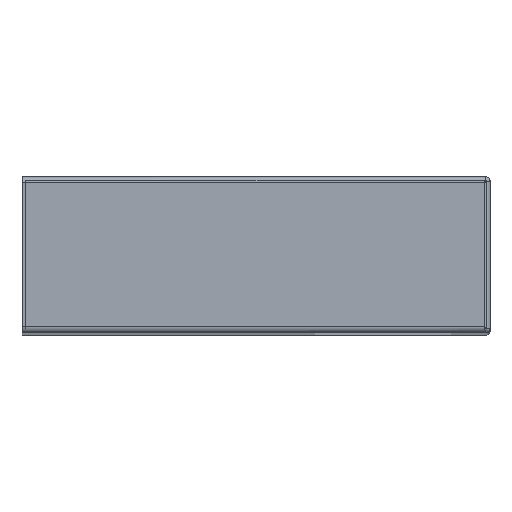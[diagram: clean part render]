
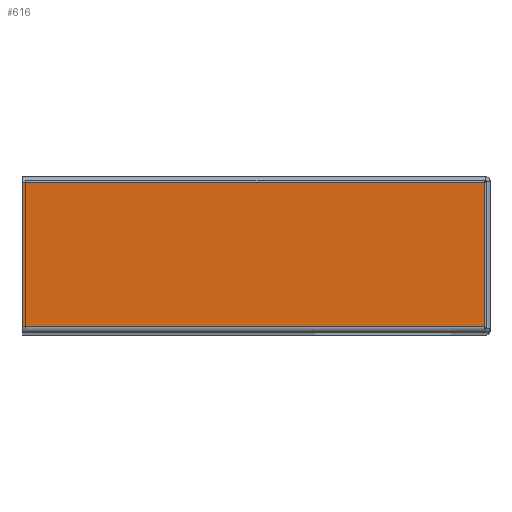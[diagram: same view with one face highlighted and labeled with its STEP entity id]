
A CAD part, top view. The second image highlights one B-rep face of the part: STEP entity #616.
In plain terms, the highlighted planar face has unit normal (0, 0, 1).
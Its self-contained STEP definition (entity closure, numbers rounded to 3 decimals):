
#246 = LINE ( 'NONE', #1129, #308 ) ;
#258 = VECTOR ( 'NONE', #922, 1000. ) ;
#292 = LINE ( 'NONE', #893, #498 ) ;
#295 = ORIENTED_EDGE ( 'NONE', *, *, #842, .T. ) ;
#308 = VECTOR ( 'NONE', #1130, 1000. ) ;
#348 = VECTOR ( 'NONE', #902, 1000. ) ;
#390 = ORIENTED_EDGE ( 'NONE', *, *, #841, .T. ) ;
#416 = ORIENTED_EDGE ( 'NONE', *, *, #1309, .T. ) ;
#421 = EDGE_LOOP ( 'NONE', ( #416, #295, #390, #491 ) ) ;
#473 = LINE ( 'NONE', #892, #348 ) ;
#491 = ORIENTED_EDGE ( 'NONE', *, *, #847, .T. ) ;
#498 = VECTOR ( 'NONE', #923, 1000. ) ;
#546 = FACE_OUTER_BOUND ( 'NONE', #421, .T. ) ;
#565 = LINE ( 'NONE', #920, #258 ) ;
#570 = AXIS2_PLACEMENT_3D ( 'NONE', #1358, #1437, #1435 ) ;
#616 = ADVANCED_FACE ( 'NONE', ( #546 ), #1425, .T. ) ;
#841 = EDGE_CURVE ( 'NONE', #1473, #1472, #565, .T. ) ;
#842 = EDGE_CURVE ( 'NONE', #1462, #1473, #292, .T. ) ;
#847 = EDGE_CURVE ( 'NONE', #1472, #1475, #473, .T. ) ;
#892 = CARTESIAN_POINT ( 'NONE',  ( 6850.408, 1977.275, 175. ) ) ;
#893 = CARTESIAN_POINT ( 'NONE',  ( 6969.408, 1940.275, 175. ) ) ;
#902 = DIRECTION ( 'NONE',  ( -1., 0., 0. ) ) ;
#920 = CARTESIAN_POINT ( 'NONE',  ( 6968.908, 1977.775, 175. ) ) ;
#922 = DIRECTION ( 'NONE',  ( 0., 1., 0. ) ) ;
#923 = DIRECTION ( 'NONE',  ( 1., 0., 0. ) ) ;
#1129 = CARTESIAN_POINT ( 'NONE',  ( 6850.408, 1978.775, 175. ) ) ;
#1130 = DIRECTION ( 'NONE',  ( 0., -1., 0. ) ) ;
#1140 = CARTESIAN_POINT ( 'NONE',  ( 6850.408, 1940.275, 175. ) ) ;
#1149 = CARTESIAN_POINT ( 'NONE',  ( 6968.908, 1940.275, 175. ) ) ;
#1157 = CARTESIAN_POINT ( 'NONE',  ( 6850.408, 1977.275, 175. ) ) ;
#1158 = CARTESIAN_POINT ( 'NONE',  ( 6968.908, 1977.275, 175. ) ) ;
#1309 = EDGE_CURVE ( 'NONE', #1475, #1462, #246, .T. ) ;
#1358 = CARTESIAN_POINT ( 'NONE',  ( 6969.408, 1977.775, 175. ) ) ;
#1425 = PLANE ( 'NONE',  #570 ) ;
#1435 = DIRECTION ( 'NONE',  ( 1., 0., 0. ) ) ;
#1437 = DIRECTION ( 'NONE',  ( 0., 0., 1. ) ) ;
#1462 = VERTEX_POINT ( 'NONE', #1140 ) ;
#1472 = VERTEX_POINT ( 'NONE', #1158 ) ;
#1473 = VERTEX_POINT ( 'NONE', #1149 ) ;
#1475 = VERTEX_POINT ( 'NONE', #1157 ) ;
